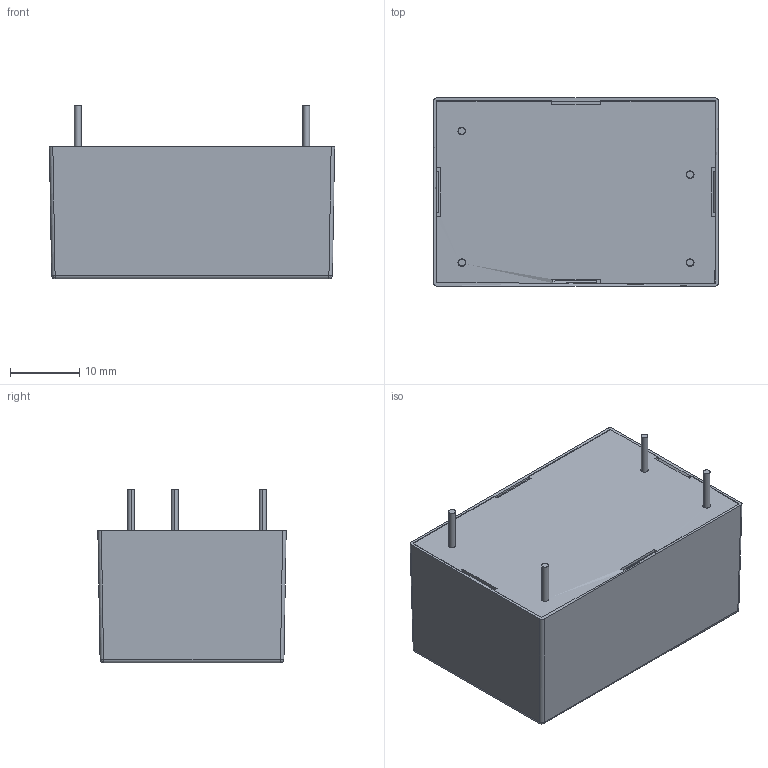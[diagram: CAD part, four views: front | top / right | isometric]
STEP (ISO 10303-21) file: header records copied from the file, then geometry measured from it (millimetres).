
FILE_DESCRIPTION (( 'STEP AP214' ), '1' );
FILE_NAME ('tmf05.STEP', '2016-11-23T15:05:37', ( '' ), ( '' ), 'SwSTEP 2.0', 'SolidWorks 2013', '' );
FILE_SCHEMA (( 'AUTOMOTIVE_DESIGN' ));
Length unit declared in the file: millimetre
Products named in the file (1): tmf05
Bounding box: 41.2 x 27.2 x 25.1 mm (x, y, z)
Surface area: 5087 mm2 (no closed solid volume)
Topology: 0 solids, 6 shells, 83 faces, 218 edges, 143 vertices
Faces by surface type: plane 51, cylinder 28, bspline 4
Entity records: 2557 total; most frequent: CARTESIAN_POINT 530, DIRECTION 421, ORIENTED_EDGE 374, EDGE_CURVE 216, VECTOR 157, LINE 157, VERTEX_POINT 143, AXIS2_PLACEMENT_3D 132
